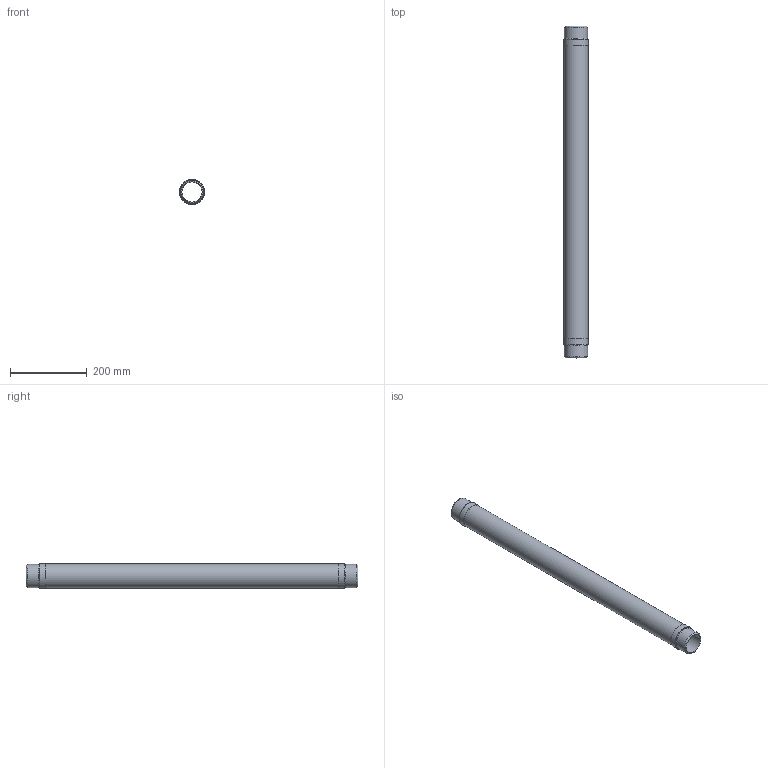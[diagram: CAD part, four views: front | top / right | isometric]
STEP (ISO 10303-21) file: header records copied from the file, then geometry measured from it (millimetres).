
FILE_DESCRIPTION(/* description */ (''),/* implementation_level */ '2;1');
FILE_NAME(/* name */ 'C:\001_Work\Designs\CSAWN\CSAWN-2x34.stp',/* time_stamp */ '2016-06-04T17:46:55-04:00',/* author */ ('rramoutar'),/* organization */ ('Mason Industries Inc.'),/* preprocessor_version */ 'ST-DEVELOPER v15.6',/* originating_system */ 'Autodesk Inventor 2015',/* authorisation */ '');
FILE_SCHEMA (('CONFIG_CONTROL_DESIGN'));
Length unit declared in the file: inch
Products named in the file (1): CSAWN-2x34
Bounding box: 65.17 x 863.6 x 65.17 mm (x, y, z)
Volume: 118959.1 mm3; surface area: 353285.6 mm2
Topology: 5 solids, 5 shells, 24 faces, 40 edges, 26 vertices
Faces by surface type: cylinder 10, plane 10, cone 4
Full cylindrical faces by diameter (mm): 52.502 x2, 60.325 x2, 61.976 x1, 62.789 x3, 65.17 x2
Entity records: 564 total; most frequent: DIRECTION 98, CARTESIAN_POINT 73, AXIS2_PLACEMENT_3D 49, EDGE_LOOP 48, ORIENTED_EDGE 48, STYLED_ITEM 29, FACE_BOUND 24, FACE_OUTER_BOUND 24
